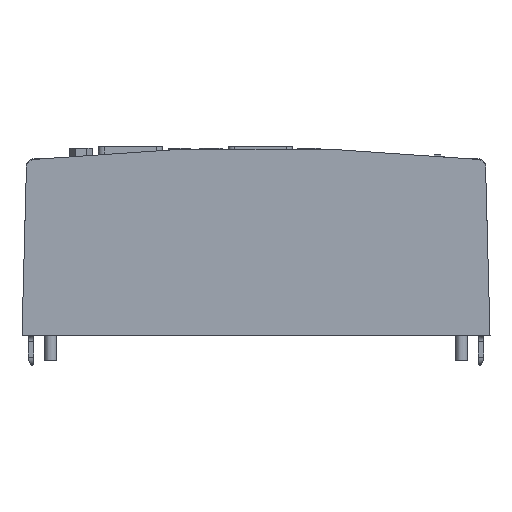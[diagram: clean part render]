
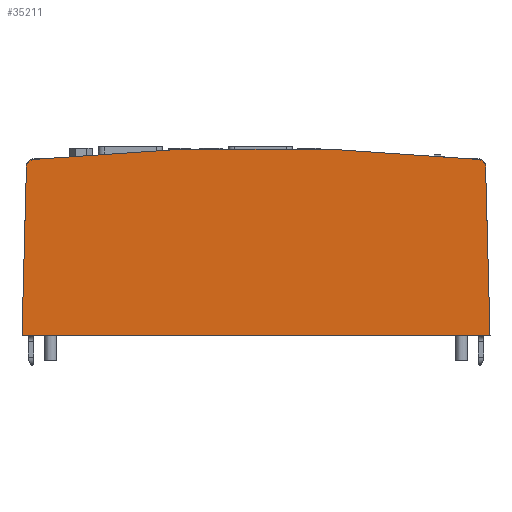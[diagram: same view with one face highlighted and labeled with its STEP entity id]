
A CAD part, left-side view. The second image highlights one B-rep face of the part: STEP entity #35211.
In plain terms, the highlighted planar face has unit normal (-1, 0, 0).
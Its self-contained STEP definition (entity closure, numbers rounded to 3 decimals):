
#1631=CIRCLE('',#37133,2.);
#1632=CIRCLE('',#37136,550.);
#1633=CIRCLE('',#37137,2.);
#2566=FACE_OUTER_BOUND('',#4441,.T.);
#4441=EDGE_LOOP('',(#22101,#22102,#22103,#22104,#22105,#22106));
#6594=LINE('',#47242,#10116);
#6597=LINE('',#47252,#10119);
#6598=LINE('',#47253,#10120);
#10116=VECTOR('',#39364,10.);
#10119=VECTOR('',#39373,10.);
#10120=VECTOR('',#39374,10.);
#13634=VERTEX_POINT('',#47235);
#13635=VERTEX_POINT('',#47237);
#13636=VERTEX_POINT('',#47241);
#13638=VERTEX_POINT('',#47247);
#13639=VERTEX_POINT('',#47249);
#13640=VERTEX_POINT('',#47251);
#17010=EDGE_CURVE('',#13634,#13635,#1631,.T.);
#17012=EDGE_CURVE('',#13635,#13636,#6594,.T.);
#17015=EDGE_CURVE('',#13638,#13634,#1632,.T.);
#17016=EDGE_CURVE('',#13639,#13638,#1633,.T.);
#17017=EDGE_CURVE('',#13640,#13639,#6597,.T.);
#17018=EDGE_CURVE('',#13636,#13640,#6598,.T.);
#22101=ORIENTED_EDGE('',*,*,#17010,.F.);
#22102=ORIENTED_EDGE('',*,*,#17015,.F.);
#22103=ORIENTED_EDGE('',*,*,#17016,.F.);
#22104=ORIENTED_EDGE('',*,*,#17017,.F.);
#22105=ORIENTED_EDGE('',*,*,#17018,.F.);
#22106=ORIENTED_EDGE('',*,*,#17012,.F.);
#32155=PLANE('',#37135);
#35211=ADVANCED_FACE('',(#2566),#32155,.F.);
#37133=AXIS2_PLACEMENT_3D('',#47238,#39359,#39360);
#37135=AXIS2_PLACEMENT_3D('',#47246,#39367,#39368);
#37136=AXIS2_PLACEMENT_3D('',#47248,#39369,#39370);
#37137=AXIS2_PLACEMENT_3D('',#47250,#39371,#39372);
#39359=DIRECTION('center_axis',(1.,0.,0.));
#39360=DIRECTION('ref_axis',(0.,-0.734,0.679));
#39364=DIRECTION('',(0.,-0.026,-1.));
#39367=DIRECTION('center_axis',(1.,0.,0.));
#39368=DIRECTION('ref_axis',(0.,0.,
1.));
#39369=DIRECTION('center_axis',(1.,0.,0.));
#39370=DIRECTION('ref_axis',(0.,0.106,0.994));
#39371=DIRECTION('center_axis',(1.,0.,0.));
#39372=DIRECTION('ref_axis',(0.,0.734,0.679));
#39373=DIRECTION('',(0.,-0.026,1.));
#39374=DIRECTION('',(0.,1.,0.));
#47235=CARTESIAN_POINT('',(-27.,-4.335,44.782));
#47237=CARTESIAN_POINT('',(-27.,-6.128,42.844));
#47238=CARTESIAN_POINT('Origin',(-27.,-4.129,42.792));
#47241=CARTESIAN_POINT('',(-27.,-7.25,0.));
#47242=CARTESIAN_POINT('',(-27.,-6.082,44.598));
#47246=CARTESIAN_POINT('Origin',(-27.,52.25,22.823));
#47247=CARTESIAN_POINT('',(-27.,108.835,44.782));
#47248=CARTESIAN_POINT('Origin',(-27.,52.25,-502.3));
#47249=CARTESIAN_POINT('',(-27.,110.628,42.844));
#47250=CARTESIAN_POINT('Origin',(-27.,108.629,42.792));
#47251=CARTESIAN_POINT('',(-27.,111.75,0.));
#47252=CARTESIAN_POINT('',(-27.,111.75,0.));
#47253=CARTESIAN_POINT('',(-27.,-7.25,0.));
